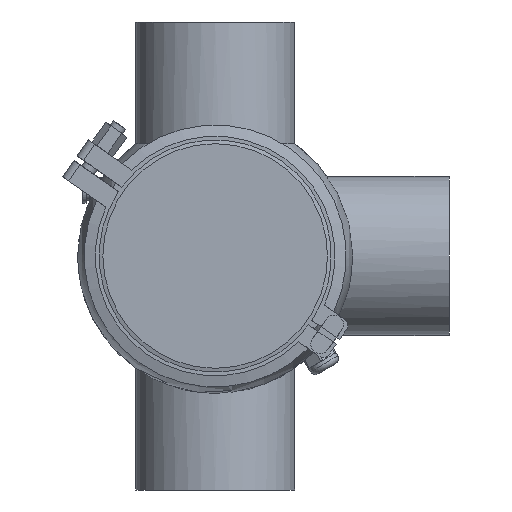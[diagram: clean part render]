
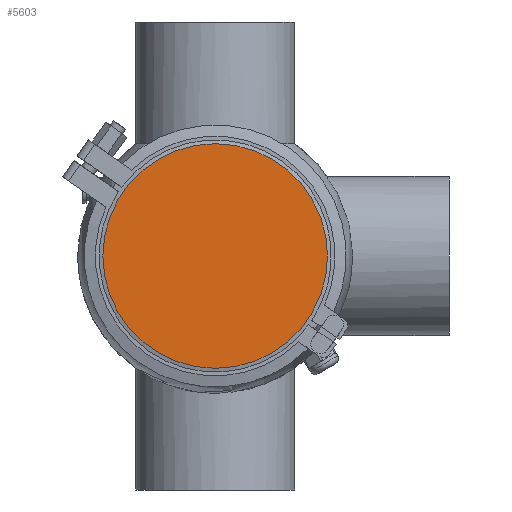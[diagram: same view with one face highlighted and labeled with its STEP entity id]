
A CAD part, front view. The second image highlights one B-rep face of the part: STEP entity #5603.
In plain terms, the highlighted planar face has unit normal (0, -1, 0).
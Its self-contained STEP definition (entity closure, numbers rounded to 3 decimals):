
#1913 = EDGE_CURVE ( 'NONE', #47771, #47771, #9498, .T. ) ;
#5603 = ADVANCED_FACE ( 'NONE', ( #53397 ), #29845, .T. ) ;
#9498 = CIRCLE ( 'NONE', #24408, 60. ) ;
#13740 = EDGE_LOOP ( 'NONE', ( #40062 ) ) ;
#20538 = CARTESIAN_POINT ( 'NONE',  ( 0., 0., 0. ) ) ;
#21359 = AXIS2_PLACEMENT_3D ( 'NONE', #44135, #41026, #50551 ) ;
#24408 = AXIS2_PLACEMENT_3D ( 'NONE', #20538, #44463, #49380 ) ;
#29845 = PLANE ( 'NONE',  #21359 ) ;
#37263 = CARTESIAN_POINT ( 'NONE',  ( 0., 0., 60. ) ) ;
#40062 = ORIENTED_EDGE ( 'NONE', *, *, #1913, .F. ) ;
#41026 = DIRECTION ( 'NONE',  ( 0., -1., 0. ) ) ;
#44135 = CARTESIAN_POINT ( 'NONE',  ( -60., 0., 0. ) ) ;
#44463 = DIRECTION ( 'NONE',  ( 0., 1., 0. ) ) ;
#47771 = VERTEX_POINT ( 'NONE', #37263 ) ;
#49380 = DIRECTION ( 'NONE',  ( 0., 0., 1. ) ) ;
#50551 = DIRECTION ( 'NONE',  ( 0., 0., -1. ) ) ;
#53397 = FACE_OUTER_BOUND ( 'NONE', #13740, .T. ) ;
